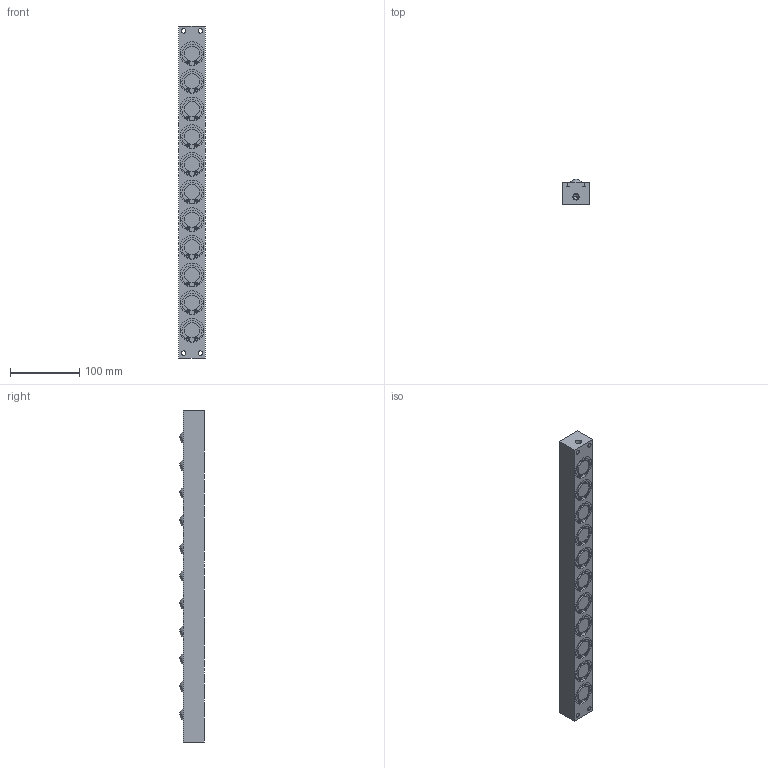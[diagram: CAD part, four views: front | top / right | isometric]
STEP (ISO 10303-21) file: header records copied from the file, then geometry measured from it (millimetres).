
FILE_DESCRIPTION (( 'STEP AP203' ), '1' );
FILE_NAME ('PVL30S-11.STEP', '2016-01-05T05:11:28', ( '' ), ( '' ), 'SwSTEP 2.0', 'SolidWorks 2013', '' );
FILE_SCHEMA (( 'CONFIG_CONTROL_DESIGN' ));
Length unit declared in the file: millimetre
Products named in the file (1): PVL30S-11
Bounding box: 38 x 36 x 480 mm (x, y, z)
Volume: 553931 mm3; surface area: 88163.6 mm2
Topology: 1 solids, 1 shells, 374 faces, 879 edges, 588 vertices
Faces by surface type: cylinder 238, plane 110, sphere 22, cone 4
Entity records: 11120 total; most frequent: DIRECTION 2173, CARTESIAN_POINT 1840, ORIENTED_EDGE 1754, AXIS2_PLACEMENT_3D 921, EDGE_CURVE 877, VERTEX_POINT 588, CIRCLE 546, EDGE_LOOP 465
